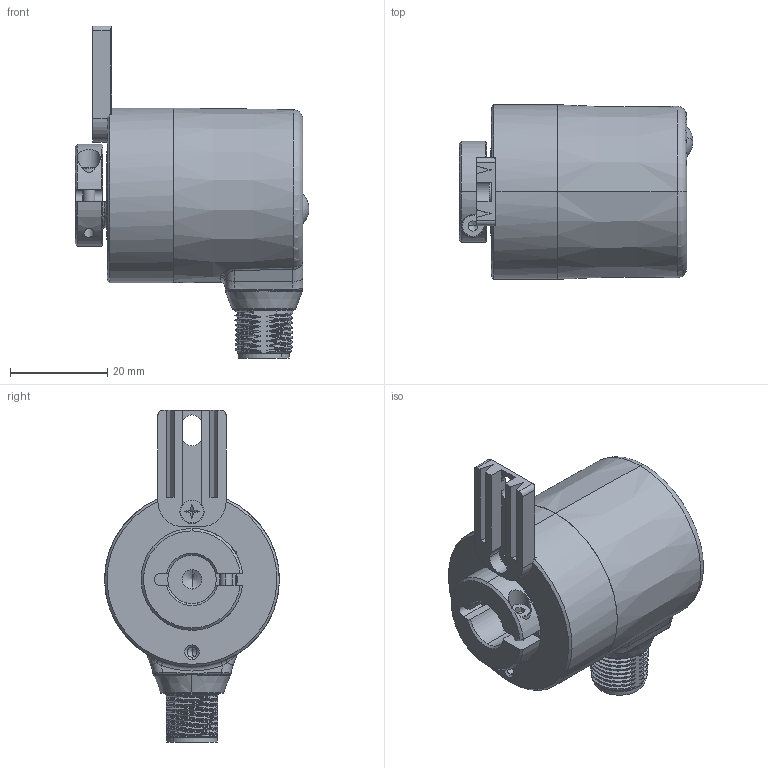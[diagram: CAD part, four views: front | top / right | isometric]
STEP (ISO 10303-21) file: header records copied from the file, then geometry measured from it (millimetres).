
FILE_DESCRIPTION (( 'STEP AP203' ), '1' );
FILE_NAME ('8.3671.2634.1311.STEP', '2017-06-23T06:37:29', ( '' ), ( '' ), 'SwSTEP 2.0', 'SolidWorks 2017', '' );
FILE_SCHEMA (( 'CONFIG_CONTROL_DESIGN' ));
Products named in the file (1): 8.3671.2634.1311
Bounding box: 48.19 x 36 x 68.4 mm (x, y, z)
Volume: 22450.2 mm3; surface area: 20647.8 mm2
Topology: 9 solids, 9 shells, 809 faces, 1949 edges, 1195 vertices
Faces by surface type: cylinder 217, plane 190, cone 157, bspline 137, torus 93, sphere 15
Entity records: 42717 total; most frequent: CARTESIAN_POINT 24932, ORIENTED_EDGE 3806, DIRECTION 3550, EDGE_CURVE 1903, AXIS2_PLACEMENT_3D 1454, VERTEX_POINT 1183, EDGE_LOOP 894, FACE_OUTER_BOUND 809
